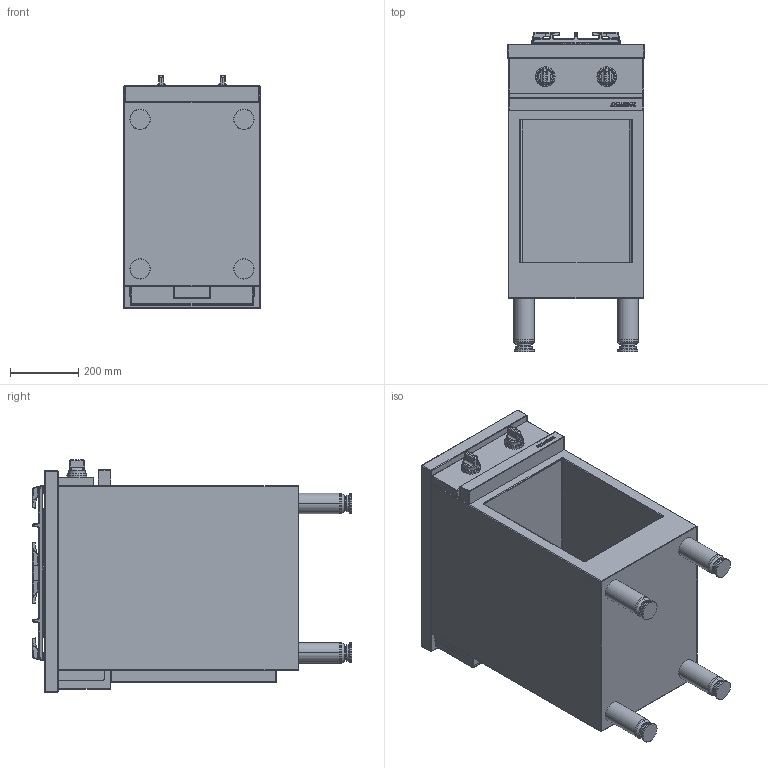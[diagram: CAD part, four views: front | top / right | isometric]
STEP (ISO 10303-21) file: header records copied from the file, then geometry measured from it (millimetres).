
FILE_DESCRIPTION((''),'2;1');
FILE_NAME('CMG420R_EXPORT_STEP_ASM','2017-11-22T',('r.avril'),(''),'PRO/ENGINEER BY PARAMETRIC TECHNOLOGY CORPORATION, 2014200','PRO/ENGINEER BY PARAMETRIC TECHNOLOGY CORPORATION, 2014200','');
FILE_SCHEMA(('AP203_CONFIGURATION_CONTROLLED_3D_DESIGN_OF_MECHANICAL_PARTS_AND_ASSEMBLIES_MIM_LF { 1 0 10303 403 2 1 2 }'));
Products named in the file (9): MODULES_AMB_400_EXPORT_STEP; TABLE_420_R; 4KW; 6537023; 65149005; 90000565_ASM; TABLE_420_R_ASM; MANETTE_AMB_EXPORT_STEP; CMG420R_EXPORT_STEP_ASM
Assembly tree (13 placements, depth 4):
  CMG420R_EXPORT_STEP_ASM
    MODULES_AMB_400_EXPORT_STEP
    TABLE_420_R_ASM
      TABLE_420_R
      4KW  x2
      90000565_ASM
        6537023
        65149005  x4
    MANETTE_AMB_EXPORT_STEP  x2
Bounding box: 400 x 935 x 682.5 mm (x, y, z)
Volume: 55496181.3 mm3; surface area: 4208542.1 mm2
Topology: 19 solids, 37 shells, 1346 faces, 4029 edges, 3043 vertices
Faces by surface type: bspline 372, cylinder 368, plane 334, cone 128, torus 72, sphere 52, extrusion 20
Entity records: 64987 total; most frequent: CARTESIAN_POINT 23934, ORIENTED_EDGE 5860, DIRECTION 5229, EDGE_CURVE 3155, PRESENTATION_STYLE_ASSIGNMENT 2691, STYLED_ITEM 2691, CURVE_STYLE 2507, VERTEX_POINT 2003
